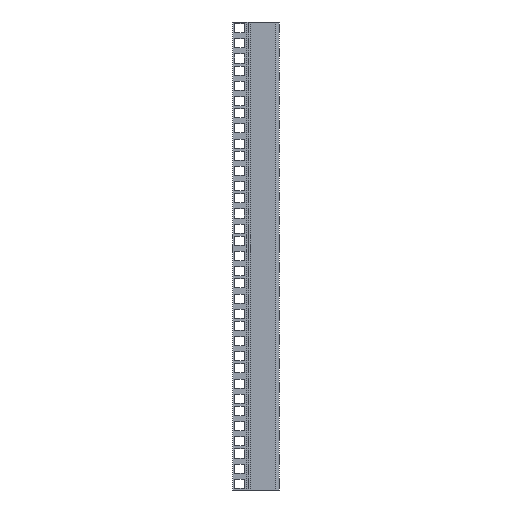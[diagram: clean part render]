
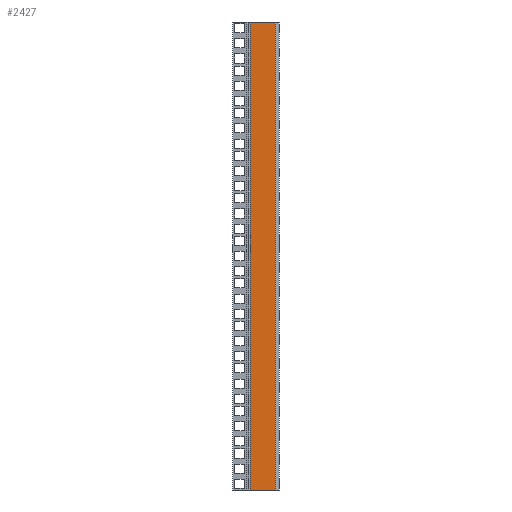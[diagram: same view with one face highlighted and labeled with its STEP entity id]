
A CAD part, left-side view. The second image highlights one B-rep face of the part: STEP entity #2427.
In plain terms, the highlighted planar face has unit normal (-1, 0, 0).
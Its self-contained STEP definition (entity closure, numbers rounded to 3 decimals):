
#592 = ORIENTED_EDGE ( 'NONE', *, *, #1043, .T. ) ;
#771 = CARTESIAN_POINT ( 'NONE',  ( -12.5, 0., 0. ) ) ;
#888 = VERTEX_POINT ( 'NONE', #9503 ) ;
#1043 = EDGE_CURVE ( 'NONE', #2840, #888, #5020, .T. ) ;
#1481 = PLANE ( 'NONE',  #6769 ) ;
#1720 = CARTESIAN_POINT ( 'NONE',  ( -12.5, 4., -489. ) ) ;
#1853 = EDGE_CURVE ( 'NONE', #4856, #2840, #3483, .T. ) ;
#2138 = FACE_OUTER_BOUND ( 'NONE', #9041, .T. ) ;
#2427 = ADVANCED_FACE ( 'NONE', ( #2138 ), #1481, .F. ) ;
#2673 = CARTESIAN_POINT ( 'NONE',  ( -12.5, 0., -489. ) ) ;
#2840 = VERTEX_POINT ( 'NONE', #7532 ) ;
#3085 = CARTESIAN_POINT ( 'NONE',  ( -12.5, 30.5, -489. ) ) ;
#3343 = LINE ( 'NONE', #5437, #3353 ) ;
#3353 = VECTOR ( 'NONE', #4649, 1000. ) ;
#3467 = VECTOR ( 'NONE', #9099, 1000. ) ;
#3483 = LINE ( 'NONE', #7125, #3467 ) ;
#3678 = CARTESIAN_POINT ( 'NONE',  ( -12.5, 0., -489. ) ) ;
#4649 = DIRECTION ( 'NONE',  ( 0., 0., 1. ) ) ;
#4856 = VERTEX_POINT ( 'NONE', #1720 ) ;
#4963 = VECTOR ( 'NONE', #8405, 1000. ) ;
#5020 = LINE ( 'NONE', #771, #4963 ) ;
#5059 = ORIENTED_EDGE ( 'NONE', *, *, #5081, .F. ) ;
#5081 = EDGE_CURVE ( 'NONE', #4856, #9938, #7922, .T. ) ;
#5433 = ORIENTED_EDGE ( 'NONE', *, *, #6896, .F. ) ;
#5437 = CARTESIAN_POINT ( 'NONE',  ( -12.5, 30.5, -489. ) ) ;
#6769 = AXIS2_PLACEMENT_3D ( 'NONE', #2673, #7907, #7986 ) ;
#6896 = EDGE_CURVE ( 'NONE', #9938, #888, #3343, .T. ) ;
#7125 = CARTESIAN_POINT ( 'NONE',  ( -12.5, 4., -489. ) ) ;
#7532 = CARTESIAN_POINT ( 'NONE',  ( -12.5, 4., 0. ) ) ;
#7905 = VECTOR ( 'NONE', #9911, 1000. ) ;
#7907 = DIRECTION ( 'NONE',  ( 1., 0., 0. ) ) ;
#7922 = LINE ( 'NONE', #3678, #7905 ) ;
#7986 = DIRECTION ( 'NONE',  ( 0., 0., -1. ) ) ;
#8405 = DIRECTION ( 'NONE',  ( 0., 1., 0. ) ) ;
#8972 = ORIENTED_EDGE ( 'NONE', *, *, #1853, .T. ) ;
#9041 = EDGE_LOOP ( 'NONE', ( #592, #5433, #5059, #8972 ) ) ;
#9099 = DIRECTION ( 'NONE',  ( 0., 0., 1. ) ) ;
#9503 = CARTESIAN_POINT ( 'NONE',  ( -12.5, 30.5, 0. ) ) ;
#9911 = DIRECTION ( 'NONE',  ( 0., 1., 0. ) ) ;
#9938 = VERTEX_POINT ( 'NONE', #3085 ) ;
